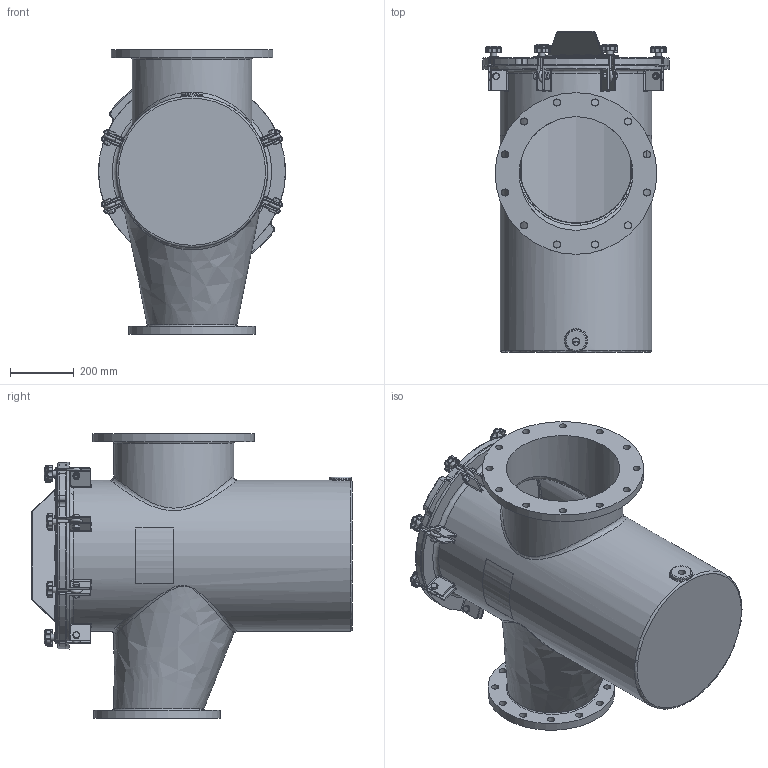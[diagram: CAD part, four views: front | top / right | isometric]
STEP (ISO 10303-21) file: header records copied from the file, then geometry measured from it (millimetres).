
FILE_DESCRIPTION(/* description */ ('350MM X 250MM FIBERGLASS STRAINER BODY'),/* implementation_level */ '2;1');
FILE_NAME(/* name */ 'E:\New folder (7)\Ready for delivery - Do not Disturb -Updated with metric Flange\Workspace\FG Reducing Strainer\Guardian FG Reducing H&L Strainer (Metric)\STRAINER H&L 350MM X 250MM.step',/* time_stamp */ '2016-10-19T04:16:09+06:00',/* author */ ('20076253'),/* organization */ (''),/* preprocessor_version */ 'ST-DEVELOPER v16.1',/* originating_system */ 'Autodesk Inventor 2016',/* authorisation */ '');
FILE_SCHEMA (('AUTOMOTIVE_DESIGN { 1 0 10303 214 3 1 1 }'));
Length unit declared in the file: inch
Products named in the file (24): NBFGBODY14X10MM; 150NBCVR18R2; 150NBGSK18R1; Perforated Basket 18in; Bride (Ring) 18in; Baffle 18in; Handle 18in; Bottom Strainer 18in; NBBSK14T316; BRACESTRCVR18_Welds; BRACE (BASE) FOR 18 BODY; BRACE (PROJ) FOR 18 BODY; Bumper; BRACESTRCVR18; Nut- 1_2  UNC; Bolt-1_2 x 1 1_2  UNC; EyeBolt; Washer; Knob M10; Securing Assembly For FG  with Brace; Securing Assembly For FG without Brace; Label for 18.625 inch (Right); Label for 18.625 inch (Left); STRAINER H&L 350MM X 250MM
Assembly tree (39 placements, depth 3):
  STRAINER H&L 350MM X 250MM
    NBFGBODY14X10MM
    150NBCVR18R2
    150NBGSK18R1
    NBBSK14T316
      Perforated Basket 18in
      Bride (Ring) 18in
      Baffle 18in
      Handle 18in
      Bottom Strainer 18in
    BRACESTRCVR18
      BRACESTRCVR18_Welds
      BRACE (BASE) FOR 18 BODY
      BRACE (PROJ) FOR 18 BODY
      Bumper  x6
    Securing Assembly For FG  with Brace  x2
      Nut- 1_2  UNC
      Bolt-1_2 x 1 1_2  UNC
      EyeBolt
      Washer
      Knob M10
    Securing Assembly For FG without Brace  x6
      Nut- 1_2  UNC
      Bolt-1_2 x 1 1_2  UNC
      EyeBolt
      Washer
      Knob M10
    Label for 18.625 inch (Right)
    Label for 18.625 inch (Left)
Bounding box: 584.2 x 1003.3 x 889 mm (x, y, z)
Volume: 29308768.6 mm3; surface area: 7378619.4 mm2
Topology: 67 solids, 67 shells, 1831 faces, 4184 edges, 2476 vertices
Faces by surface type: cylinder 672, plane 511, cone 184, torus 168, sphere 158, bspline 138
Full cylindrical faces by diameter (mm): 3.175 x11, 6.35 x2, 8.382 x8, 9.525 x16, 10.592 x8, 12.7 x8, 15.875 x16, 19 x16, 19.05 x8, 22.098 x24, 22.809 x1, 31.75 x8, 68.263 x1, 352.425 x2, 355.6 x2, 358.14 x1, 374.65 x1, 396.24 x1, 457.2 x3, 463.55 x1, 473.075 x1, 505.46 x1, 520.7 x1, 527.05 x1
Entity records: 35634 total; most frequent: CARTESIAN_POINT 12189, DIRECTION 4838, ORIENTED_EDGE 4434, EDGE_CURVE 2217, AXIS2_PLACEMENT_3D 1979, VERTEX_POINT 1393, EDGE_LOOP 1206, ADVANCED_FACE 981
